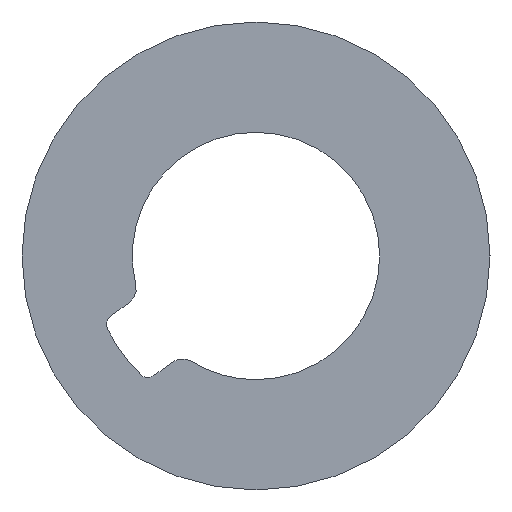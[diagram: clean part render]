
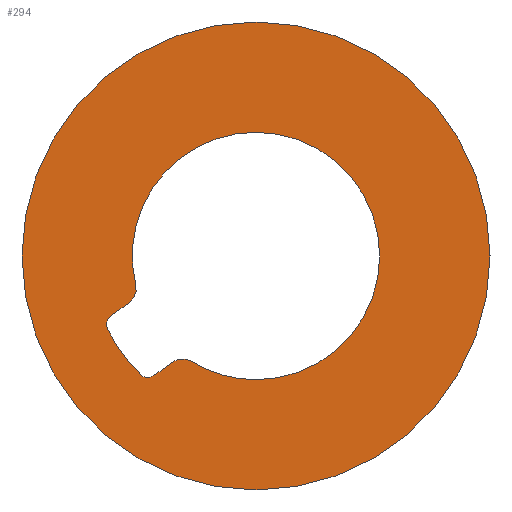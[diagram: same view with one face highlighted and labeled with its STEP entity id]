
A CAD part, left-side view. The second image highlights one B-rep face of the part: STEP entity #294.
In plain terms, the highlighted planar face has unit normal (-1, 0, 0).
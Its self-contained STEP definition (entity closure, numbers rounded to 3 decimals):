
#12 = AXIS2_PLACEMENT_3D ( 'NONE', #353, #352, #351 ) ;
#27 = AXIS2_PLACEMENT_3D ( 'NONE', #420, #419, #418 ) ;
#34 = AXIS2_PLACEMENT_3D ( 'NONE', #454, #453, #452 ) ;
#36 = AXIS2_PLACEMENT_3D ( 'NONE', #468, #467, #466 ) ;
#38 = AXIS2_PLACEMENT_3D ( 'NONE', #479, #478, #477 ) ;
#40 = AXIS2_PLACEMENT_3D ( 'NONE', #493, #492, #491 ) ;
#42 = AXIS2_PLACEMENT_3D ( 'NONE', #522, #521, #520 ) ;
#43 = AXIS2_PLACEMENT_3D ( 'NONE', #355, #525, #524 ) ;
#44 = AXIS2_PLACEMENT_3D ( 'NONE', #368, #364, #360 ) ;
#45 = AXIS2_PLACEMENT_3D ( 'NONE', #388, #384, #380 ) ;
#47 = AXIS2_PLACEMENT_3D ( 'NONE', #421, #417, #414 ) ;
#48 = AXIS2_PLACEMENT_3D ( 'NONE', #432, #429, #425 ) ;
#49 = EDGE_CURVE ( 'NONE', #465, #469, #230, .T. ) ;
#50 = EDGE_CURVE ( 'NONE', #462, #458, #228, .T. ) ;
#53 = EDGE_CURVE ( 'NONE', #440, #501, #222, .T. ) ;
#54 = EDGE_CURVE ( 'NONE', #501, #483, #223, .T. ) ;
#55 = EDGE_CURVE ( 'NONE', #483, #462, #217, .T. ) ;
#56 = EDGE_CURVE ( 'NONE', #458, #436, #216, .T. ) ;
#57 = EDGE_CURVE ( 'NONE', #436, #473, #214, .T. ) ;
#66 = EDGE_CURVE ( 'NONE', #490, #497, #196, .T. ) ;
#70 = EDGE_CURVE ( 'NONE', #516, #523, #188, .T. ) ;
#73 = EDGE_CURVE ( 'NONE', #469, #516, #182, .T. ) ;
#77 = EDGE_CURVE ( 'NONE', #523, #440, #174, .T. ) ;
#86 = EDGE_CURVE ( 'NONE', #497, #490, #156, .T. ) ;
#87 = EDGE_CURVE ( 'NONE', #473, #465, #157, .T. ) ;
#93 = ORIENTED_EDGE ( 'NONE', *, *, #87, .T. ) ;
#94 = ORIENTED_EDGE ( 'NONE', *, *, #66, .F. ) ;
#95 = ORIENTED_EDGE ( 'NONE', *, *, #86, .F. ) ;
#96 = ORIENTED_EDGE ( 'NONE', *, *, #49, .T. ) ;
#97 = ORIENTED_EDGE ( 'NONE', *, *, #70, .T. ) ;
#98 = ORIENTED_EDGE ( 'NONE', *, *, #73, .T. ) ;
#104 = ORIENTED_EDGE ( 'NONE', *, *, #54, .T. ) ;
#105 = ORIENTED_EDGE ( 'NONE', *, *, #53, .T. ) ;
#106 = ORIENTED_EDGE ( 'NONE', *, *, #77, .T. ) ;
#107 = ORIENTED_EDGE ( 'NONE', *, *, #56, .T. ) ;
#108 = ORIENTED_EDGE ( 'NONE', *, *, #50, .T. ) ;
#109 = ORIENTED_EDGE ( 'NONE', *, *, #55, .T. ) ;
#110 = ORIENTED_EDGE ( 'NONE', *, *, #57, .T. ) ;
#127 = FACE_BOUND ( 'NONE', #235, .T. ) ;
#128 = FACE_OUTER_BOUND ( 'NONE', #236, .T. ) ;
#155 = VECTOR ( 'NONE', #415, 1000. ) ;
#156 = CIRCLE ( 'NONE', #27, 7. ) ;
#157 = LINE ( 'NONE', #416, #155 ) ;
#174 = CIRCLE ( 'NONE', #34, 3.7 ) ;
#182 = CIRCLE ( 'NONE', #36, 3.7 ) ;
#188 = CIRCLE ( 'NONE', #38, 3.7 ) ;
#196 = CIRCLE ( 'NONE', #40, 7. ) ;
#214 = CIRCLE ( 'NONE', #42, 0.3 ) ;
#216 = CIRCLE ( 'NONE', #43, 4.95 ) ;
#217 = CIRCLE ( 'NONE', #44, 0.3 ) ;
#221 = VECTOR ( 'NONE', #372, 1000. ) ;
#222 = CIRCLE ( 'NONE', #45, 0.5 ) ;
#223 = LINE ( 'NONE', #376, #221 ) ;
#228 = CIRCLE ( 'NONE', #47, 0.3 ) ;
#230 = CIRCLE ( 'NONE', #48, 0.5 ) ;
#235 = EDGE_LOOP ( 'NONE', ( #93, #96, #98, #97, #106, #105, #104, #109, #108, #107, #110 ) ) ;
#236 = EDGE_LOOP ( 'NONE', ( #95, #94 ) ) ;
#294 = ADVANCED_FACE ( 'NONE', ( #128, #127 ), #354, .F. ) ;
#317 = CARTESIAN_POINT ( 'NONE',  ( -539.5, 0., -3.7 ) ) ;
#319 = CARTESIAN_POINT ( 'NONE',  ( -539.5, 0., 3.7 ) ) ;
#324 = CARTESIAN_POINT ( 'NONE',  ( -539.5, 2.495, -3.172 ) ) ;
#325 = CARTESIAN_POINT ( 'NONE',  ( -539.5, 0., 7. ) ) ;
#327 = CARTESIAN_POINT ( 'NONE',  ( -539.5, 0., -7. ) ) ;
#329 = CARTESIAN_POINT ( 'NONE',  ( -539.5, 3.059, -3.582 ) ) ;
#332 = CARTESIAN_POINT ( 'NONE',  ( -539.5, 4.352, -1.803 ) ) ;
#333 = CARTESIAN_POINT ( 'NONE',  ( -539.5, 3.596, -0.87 ) ) ;
#334 = CARTESIAN_POINT ( 'NONE',  ( -539.5, 3.788, -1.393 ) ) ;
#335 = CARTESIAN_POINT ( 'NONE',  ( -539.5, 3.236, -3.64 ) ) ;
#336 = CARTESIAN_POINT ( 'NONE',  ( -539.5, 3.444, -3.555 ) ) ;
#341 = CARTESIAN_POINT ( 'NONE',  ( -539.5, 1.939, -3.151 ) ) ;
#342 = CARTESIAN_POINT ( 'NONE',  ( -539.5, 4.445, -2.177 ) ) ;
#351 = DIRECTION ( 'NONE',  ( 0., 0., -1. ) ) ;
#352 = DIRECTION ( 'NONE',  ( 1., 0., 0. ) ) ;
#353 = CARTESIAN_POINT ( 'NONE',  ( -539.5, 0., 0. ) ) ;
#354 = PLANE ( 'NONE',  #12 ) ;
#355 = CARTESIAN_POINT ( 'NONE',  ( -539.5, 0., 0. ) ) ;
#360 = DIRECTION ( 'NONE',  ( 0., 0., 1. ) ) ;
#364 = DIRECTION ( 'NONE',  ( 1., 0., 0. ) ) ;
#368 = CARTESIAN_POINT ( 'NONE',  ( -539.5, 3.236, -3.34 ) ) ;
#372 = DIRECTION ( 'NONE',  ( 0., 0.809, -0.588 ) ) ;
#376 = CARTESIAN_POINT ( 'NONE',  ( -539.5, 3.059, -3.582 ) ) ;
#380 = DIRECTION ( 'NONE',  ( 0., 0., -1. ) ) ;
#384 = DIRECTION ( 'NONE',  ( -1., 0., 0. ) ) ;
#388 = CARTESIAN_POINT ( 'NONE',  ( -539.5, 2.201, -3.577 ) ) ;
#414 = DIRECTION ( 'NONE',  ( 0., 0., 1. ) ) ;
#415 = DIRECTION ( 'NONE',  ( 0., -0.809, 0.588 ) ) ;
#416 = CARTESIAN_POINT ( 'NONE',  ( -539.5, 3.788, -1.393 ) ) ;
#417 = DIRECTION ( 'NONE',  ( 1., 0., 0. ) ) ;
#418 = DIRECTION ( 'NONE',  ( 0., 0., -1. ) ) ;
#419 = DIRECTION ( 'NONE',  ( 1., 0., 0. ) ) ;
#420 = CARTESIAN_POINT ( 'NONE',  ( -539.5, 0., 0. ) ) ;
#421 = CARTESIAN_POINT ( 'NONE',  ( -539.5, 3.236, -3.34 ) ) ;
#425 = DIRECTION ( 'NONE',  ( 0., 0., 1. ) ) ;
#429 = DIRECTION ( 'NONE',  ( -1., 0., 0. ) ) ;
#432 = CARTESIAN_POINT ( 'NONE',  ( -539.5, 4.082, -0.988 ) ) ;
#436 = VERTEX_POINT ( 'NONE', #342 ) ;
#440 = VERTEX_POINT ( 'NONE', #341 ) ;
#452 = DIRECTION ( 'NONE',  ( 0., 0., -1. ) ) ;
#453 = DIRECTION ( 'NONE',  ( 1., 0., 0. ) ) ;
#454 = CARTESIAN_POINT ( 'NONE',  ( -539.5, 0., 0. ) ) ;
#458 = VERTEX_POINT ( 'NONE', #336 ) ;
#462 = VERTEX_POINT ( 'NONE', #335 ) ;
#465 = VERTEX_POINT ( 'NONE', #334 ) ;
#466 = DIRECTION ( 'NONE',  ( 0., 0., -1. ) ) ;
#467 = DIRECTION ( 'NONE',  ( 1., 0., 0. ) ) ;
#468 = CARTESIAN_POINT ( 'NONE',  ( -539.5, 0., 0. ) ) ;
#469 = VERTEX_POINT ( 'NONE', #333 ) ;
#473 = VERTEX_POINT ( 'NONE', #332 ) ;
#477 = DIRECTION ( 'NONE',  ( 0., 0., -1. ) ) ;
#478 = DIRECTION ( 'NONE',  ( 1., 0., 0. ) ) ;
#479 = CARTESIAN_POINT ( 'NONE',  ( -539.5, 0., 0. ) ) ;
#483 = VERTEX_POINT ( 'NONE', #329 ) ;
#490 = VERTEX_POINT ( 'NONE', #327 ) ;
#491 = DIRECTION ( 'NONE',  ( 0., 0., -1. ) ) ;
#492 = DIRECTION ( 'NONE',  ( 1., 0., 0. ) ) ;
#493 = CARTESIAN_POINT ( 'NONE',  ( -539.5, 0., 0. ) ) ;
#497 = VERTEX_POINT ( 'NONE', #325 ) ;
#501 = VERTEX_POINT ( 'NONE', #324 ) ;
#516 = VERTEX_POINT ( 'NONE', #319 ) ;
#520 = DIRECTION ( 'NONE',  ( 0., 0., -1. ) ) ;
#521 = DIRECTION ( 'NONE',  ( 1., 0., 0. ) ) ;
#522 = CARTESIAN_POINT ( 'NONE',  ( -539.5, 4.176, -2.045 ) ) ;
#523 = VERTEX_POINT ( 'NONE', #317 ) ;
#524 = DIRECTION ( 'NONE',  ( 0., 0., 1. ) ) ;
#525 = DIRECTION ( 'NONE',  ( 1., 0., 0. ) ) ;
